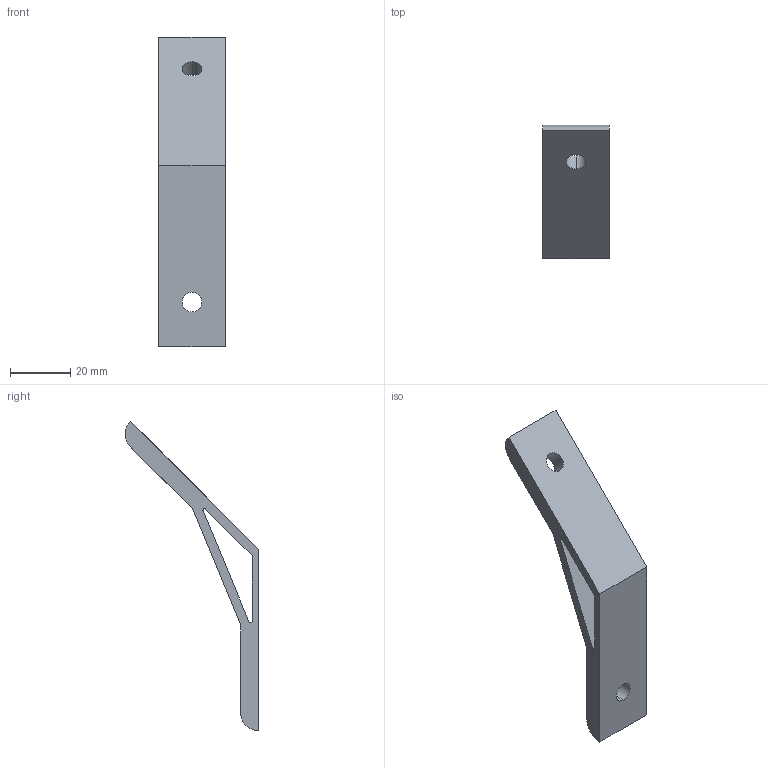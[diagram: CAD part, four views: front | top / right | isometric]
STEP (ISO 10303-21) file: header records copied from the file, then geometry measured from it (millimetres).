
FILE_DESCRIPTION (( 'STEP AP203' ), '1' );
FILE_NAME ('6143.STEP', '2016-06-27T12:02:32', ( 'RosInstal-MKM' ), ( '' ), 'SwSTEP 2.0', 'SolidWorks 2014', '' );
FILE_SCHEMA (( 'CONFIG_CONTROL_DESIGN' ));
Length unit declared in the file: millimetre
Products named in the file (1): 6143
Bounding box: 22 x 44.16 x 102.43 mm (x, y, z)
Volume: 14161 mm3; surface area: 8578.7 mm2
Topology: 1 solids, 1 shells, 19 faces, 51 edges, 34 vertices
Faces by surface type: plane 10, cylinder 9
Entity records: 692 total; most frequent: DIRECTION 109, CARTESIAN_POINT 105, ORIENTED_EDGE 102, EDGE_CURVE 51, AXIS2_PLACEMENT_3D 38, VERTEX_POINT 34, LINE 33, VECTOR 33
